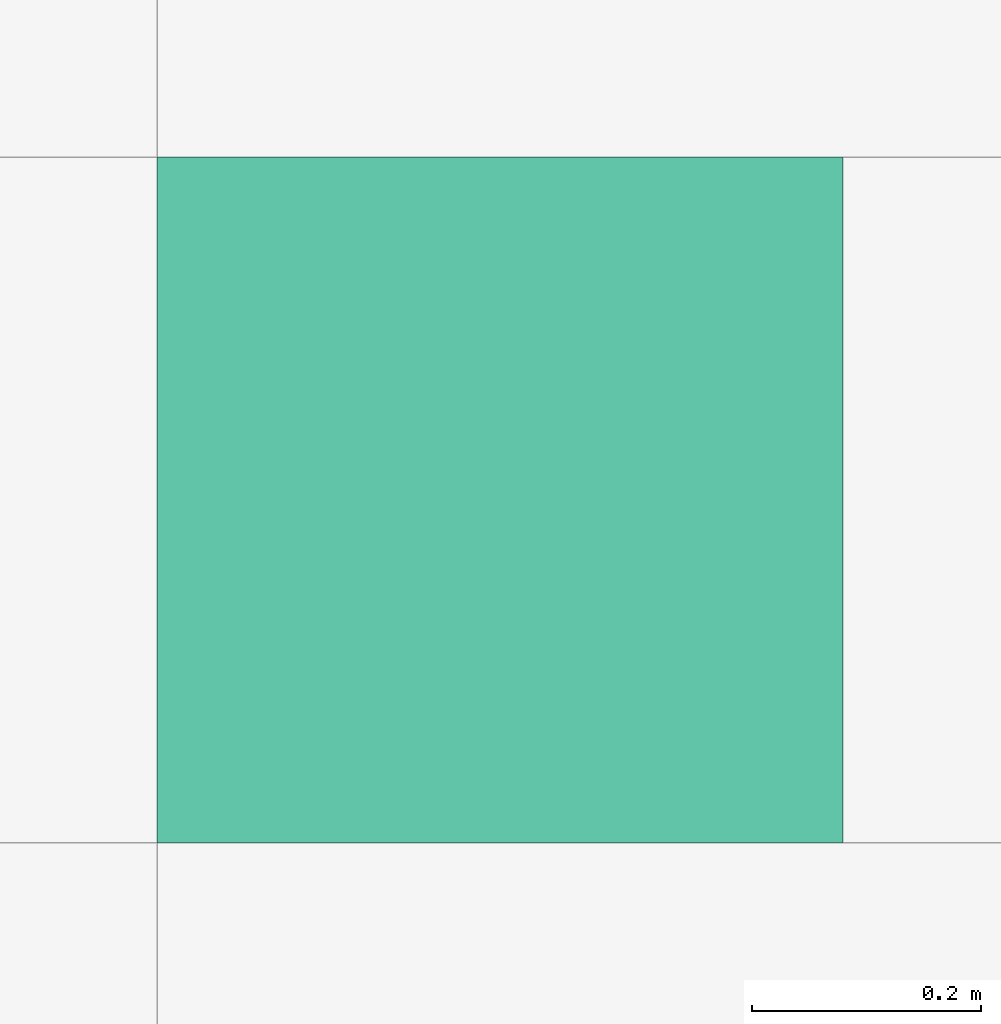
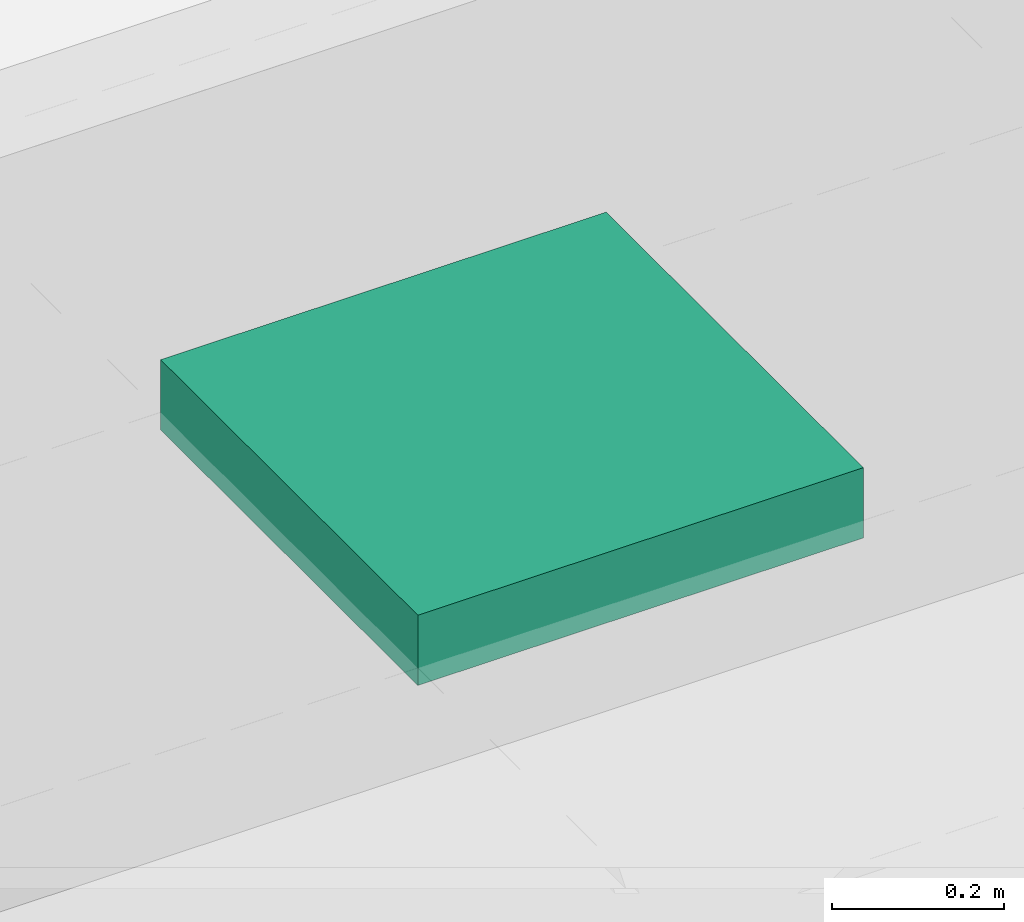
# One storey, part 192 of 347: 1 flow terminal.
"""IFC2X3 building model written with IfcOpenShell, lengths in millimetres."""

import ifcopenshell
import ifcopenshell.guid

model = None  # the IFC model being written
_history = None  # IfcOwnerHistory: only IFC2X3 demands one
_inside = {}  # id of a spatial element -> (the spatial element, [elements in it])
_under = {}  # id of a project, library or spatial element -> (it, [spatial elements below it])
_declared = {}  # id of a project -> (the project, [libraries it declares])
_typed = {}  # id of a type object -> (the type object, [elements of that type])
_made_of = {}  # id of a material, layer set ... -> (it, [elements and type objects made of it])


def new_model(schema):
    """Start an empty IFC model of exactly this schema.

    Asked for "IFC4X3", IfcOpenShell would pick the latest addendum, in which some entities
    have other attributes; the version numbers below select the first issue.
    IFC2X3 requires an IfcOwnerHistory on every rooted entity: one is made here for all.
    """
    global model, _history
    if schema == "IFC4X3":
        model = ifcopenshell.file(schema_version=(4, 3, 0, 0))
    else:
        model = ifcopenshell.file(schema=schema)
    _inside.clear()
    _under.clear()
    _declared.clear()
    _typed.clear()
    _made_of.clear()
    _history = None
    if model.schema == "IFC2X3":
        org = make("IfcOrganization", Name="unknown")
        user = make(
            "IfcPersonAndOrganization",
            ThePerson=make("IfcPerson", FamilyName="unknown"),
            TheOrganization=org,
        )
        app = make(
            "IfcApplication",
            ApplicationDeveloper=org,
            Version="unknown",
            ApplicationFullName="unknown",
            ApplicationIdentifier="unknown",
        )
        _history = make(
            "IfcOwnerHistory",
            OwningUser=user,
            OwningApplication=app,
            ChangeAction="ADDED",
            CreationDate=0,
        )
    return model


def make(cls, **values):
    """One entity of the class cls with the attributes given. An attribute that is None is left unset."""
    return model.create_entity(
        cls, **{name: value for name, value in values.items() if value is not None}
    )


def entity(cls, *values):
    """Any entity or typed value of the class cls, its attributes in the order of the schema. None: left unset."""
    e = model.create_entity(cls)
    for i, value in enumerate(values):
        if value is not None:
            e[i] = value
    return e


def rooted(cls, **values):
    """An entity with a GlobalId (a new one), such as an element, a storey or a relation."""
    return make(cls, GlobalId=ifcopenshell.guid.new(), OwnerHistory=_history, **values)


def si_unit(unit_type, name, prefix=None):
    """IfcSIUnit, for example si_unit("LENGTHUNIT", "METRE", prefix="MILLI")."""
    return make("IfcSIUnit", UnitType=unit_type, Prefix=prefix, Name=name)


def converted_unit(unit_type, name, factor, base, dimensions=None, offset=None):
    """IfcConversionBasedUnit, such as the inch: factor (a typed value) times the base unit."""
    return make(
        "IfcConversionBasedUnit"
        if offset is None
        else "IfcConversionBasedUnitWithOffset",
        ConversionOffset=offset,
        Dimensions=None
        if dimensions is None
        else entity("IfcDimensionalExponents", *dimensions),
        UnitType=unit_type,
        Name=name,
        ConversionFactor=make(
            "IfcMeasureWithUnit", ValueComponent=factor, UnitComponent=base
        ),
    )


def derived_unit(unit_type, elements):
    """IfcDerivedUnit: a product of units, each with its exponent."""
    return make(
        "IfcDerivedUnit",
        Elements=[
            make("IfcDerivedUnitElement", Unit=unit, Exponent=power)
            for unit, power in elements
        ],
        UnitType=unit_type,
    )


def money_unit(currency):
    """IfcMonetaryUnit."""
    return make("IfcMonetaryUnit", Currency=currency)


def assignment(units):
    """IfcUnitAssignment: the units of a project."""
    return None if units is None else make("IfcUnitAssignment", Units=units)


def point(xyz):
    """IfcCartesianPoint."""
    return None if xyz is None else make("IfcCartesianPoint", Coordinates=xyz)


def direction(xyz):
    """IfcDirection."""
    return None if xyz is None else make("IfcDirection", DirectionRatios=xyz)


def frame(location, z_axis=None, x_axis=None):
    """IfcAxis2Placement3D, a coordinate frame: its origin and axes. An axis left out is left unset."""
    return make(
        "IfcAxis2Placement3D",
        Location=point(location),
        Axis=direction(z_axis),
        RefDirection=direction(x_axis),
    )


def origin_with_axes():
    """The frame at (0, 0, 0) with the z axis (0, 0, 1) and the x axis (1, 0, 0) written out."""
    return frame((0.0, 0.0, 0.0), z_axis=(0.0, 0.0, 1.0), x_axis=(1.0, 0.0, 0.0))


def place(relative_to, where):
    """IfcLocalPlacement: puts the frame where relative to a parent placement (None: the world)."""
    return make(
        "IfcLocalPlacement", PlacementRelTo=relative_to, RelativePlacement=where
    )


def context(
    kind, dimensions, precision=None, world=None, true_north=None, identifier=None
):
    """IfcGeometricRepresentationContext, for example the 3D "Model" context."""
    return make(
        "IfcGeometricRepresentationContext",
        ContextIdentifier=identifier,
        ContextType=kind,
        CoordinateSpaceDimension=dimensions,
        Precision=precision,
        WorldCoordinateSystem=world,
        TrueNorth=true_north,
    )


def subcontext(parent, identifier, kind, view, scale=None):
    """IfcGeometricRepresentationSubContext, for example "Body" below "Model"."""
    return make(
        "IfcGeometricRepresentationSubContext",
        ContextIdentifier=identifier,
        ContextType=kind,
        ParentContext=parent,
        TargetScale=scale,
        TargetView=view,
    )


def project(units=None, contexts=None):
    """IfcProject with its units and contexts."""
    return rooted(
        "IfcProject",
        Name="project",
        RepresentationContexts=contexts,
        UnitsInContext=assignment(units),
    )


def spatial(cls, under=None, at=None, **own):
    """A site, building, storey or space (cls), placed at a placement, below another one or the project."""
    s = rooted(cls, ObjectPlacement=at, **own)
    if under is not None:
        _under.setdefault(under.id(), (under, []))[1].append(s)
    return s


def faces_of(points, faces, orient=None, outer=None):
    """IfcFace entities. A face is a list of loops; a loop is a list of indices into points, from 0.

    orient and outer hold one flag for each loop. By default every Orientation is true, the
    first loop of a face is its IfcFaceOuterBound and the others are IfcFaceBound.
    """
    made = []
    for i, loops in enumerate(faces):
        bounds = []
        for j, loop in enumerate(loops):
            is_outer = j == 0 if outer is None else outer[i][j]
            bounds.append(
                make(
                    "IfcFaceOuterBound" if is_outer else "IfcFaceBound",
                    Bound=make("IfcPolyLoop", Polygon=[points[k] for k in loop]),
                    Orientation=True if orient is None else orient[i][j],
                )
            )
        made.append(make("IfcFace", Bounds=bounds))
    return made


def open_shell(faces, orient=None, outer=None):
    """The faces of one IfcOpenShell. surface_model builds it on its shared points."""
    return ("IfcOpenShell", faces, orient, outer)


def faceted_brep(points, faces, orient=None, outer=None, voids=None):
    """IfcFacetedBrep: a solid bounded by flat faces; with voids (closed shells), ...WithVoids."""
    shared = [point(p) for p in points]
    hull = make("IfcClosedShell", CfsFaces=faces_of(shared, faces, orient, outer))
    if voids is None:
        return make("IfcFacetedBrep", Outer=hull)
    return make(
        "IfcFacetedBrepWithVoids",
        Outer=hull,
        Voids=[
            make(cls, CfsFaces=faces_of(shared, fs, o, b)) for cls, fs, o, b in voids
        ],
    )


def surface_model(cls, points, shells):
    """IfcFaceBasedSurfaceModel or IfcShellBasedSurfaceModel (cls): surfaces that need not close."""
    shared = [point(p) for p in points]
    made = [make(c, CfsFaces=faces_of(shared, fs, o, b)) for c, fs, o, b in shells]
    if cls == "IfcFaceBasedSurfaceModel":
        return make(cls, FbsmFaces=made)
    return make(cls, SbsmBoundary=made)


def shape(context_of_items, identifier, shape_type, items):
    """IfcShapeRepresentation: the items that make up one representation, for example the "Body"."""
    return make(
        "IfcShapeRepresentation",
        ContextOfItems=context_of_items,
        RepresentationIdentifier=identifier,
        RepresentationType=shape_type,
        Items=items,
    )


def source(mapping_origin, context_of_items, identifier, shape_type, items):
    """IfcRepresentationMap: a shape defined once, which mapped items show again and again."""
    return make(
        "IfcRepresentationMap",
        MappingOrigin=mapping_origin,
        MappedRepresentation=shape(context_of_items, identifier, shape_type, items),
    )


def transform(
    local_origin,
    x_axis=None,
    y_axis=None,
    z_axis=None,
    scale=None,
    scale2=None,
    scale3=None,
    uniform=True,
):
    """IfcCartesianTransformationOperator3D, or its non-uniform kind. x_axis, y_axis, z_axis: its Axis1, 2, 3."""
    if uniform:
        return make(
            "IfcCartesianTransformationOperator3D",
            Axis1=direction(x_axis),
            Axis2=direction(y_axis),
            LocalOrigin=point(local_origin),
            Scale=scale,
            Axis3=direction(z_axis),
        )
    return make(
        "IfcCartesianTransformationOperator3DnonUniform",
        Axis1=direction(x_axis),
        Axis2=direction(y_axis),
        LocalOrigin=point(local_origin),
        Scale=scale,
        Axis3=direction(z_axis),
        Scale2=scale2,
        Scale3=scale3,
    )


def mapped(mapping_source, mapping_target):
    """IfcMappedItem: shows the shape of a source again, moved by a transform."""
    return make(
        "IfcMappedItem", MappingSource=mapping_source, MappingTarget=mapping_target
    )


def made_of(thing, what):
    """Note that an element or type object is made of a material, layer set ...; save() writes the relation."""
    if what is not None:
        _made_of.setdefault(what.id(), (what, []))[1].append(thing)
    return thing


def type_object(cls, material=None, **own):
    """A type object (cls), such as IfcWallType, which elements share."""
    return made_of(rooted(cls, **own), material)


def type_shapes(of_type, sources):
    """Give a type object the sources (RepresentationMaps) that its elements show as mapped items."""
    of_type.RepresentationMaps = sources


def element(
    cls,
    number,
    at=None,
    inside=None,
    cuts=None,
    type_object=None,
    material=None,
    context=None,
    identifier="Body",
    shape_type=None,
    held_by="IfcProductDefinitionShape",
    body=None,
    shapes=None,
    **own,
):
    """One element of the class cls, such as IfcWall. Its Tag is "e" and its number.

    at: its placement. inside: the storey or other place that contains it. cuts: it is an
    opening in that element (IfcRelVoidsElement). A single representation is given by context,
    identifier, shape_type and body (its items); several are given by shapes. held_by: the class
    of the entity that holds the representations. save() writes the other relations.
    """
    e = rooted(cls, Tag="e%d" % number, ObjectPlacement=at, **own)
    if body is not None:
        shapes = [shape(context, identifier, shape_type, body)]
    if shapes is not None:
        e.Representation = make(held_by, Representations=shapes)
    if inside is not None:
        _inside.setdefault(inside.id(), (inside, []))[1].append(e)
    if cuts is not None:
        rooted(
            "IfcRelVoidsElement", RelatingBuildingElement=cuts, RelatedOpeningElement=e
        )
    if type_object is not None:
        _typed.setdefault(type_object.id(), (type_object, []))[1].append(e)
    return made_of(e, material)


def aggregate(whole, parts):
    """IfcRelAggregates: a whole, such as a stair, and the parts it consists of."""
    return rooted("IfcRelAggregates", RelatingObject=whole, RelatedObjects=parts)


def save(model, path):
    """Write the relations noted so far, then the file.

    IfcRelAggregates (storeys below a building ...), IfcRelContainedInSpatialStructure (elements
    in a storey), IfcRelDefinesByType, IfcRelAssociatesMaterial and IfcRelDeclares: one each for
    every whole, place, type object, material and project.
    """
    for whole, parts in _under.values():
        aggregate(whole, parts)
    for where, things in _inside.values():
        rooted(
            "IfcRelContainedInSpatialStructure",
            RelatedElements=things,
            RelatingStructure=where,
        )
    for kind, things in _typed.values():
        rooted("IfcRelDefinesByType", RelatedObjects=things, RelatingType=kind)
    for what, things in _made_of.values():
        rooted("IfcRelAssociatesMaterial", RelatedObjects=things, RelatingMaterial=what)
    for by, libraries in _declared.values():
        rooted("IfcRelDeclares", RelatingContext=by, RelatedDefinitions=libraries)
    model.write(path)


model = new_model("IFC2X3")

# Units and contexts
model_context = context("Model", 3, precision=0.01, world=origin_with_axes(), true_north=direction((0.0, 1.0)))
plan_context = context("Plan", 3, precision=0.01, world=origin_with_axes(), true_north=direction((0.0, 1.0)))
body_context = subcontext(model_context, "Body", "Model", "MODEL_VIEW")
ifc_project = project(units=[si_unit("LENGTHUNIT", "METRE", prefix="MILLI"), si_unit("AREAUNIT", "SQUARE_METRE"), si_unit("VOLUMEUNIT", "CUBIC_METRE"), converted_unit("PLANEANGLEUNIT", "DEGREE", entity("IfcPlaneAngleMeasure", 0.0174532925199), si_unit("PLANEANGLEUNIT", "RADIAN"), dimensions=[0, 0, 0, 0, 0, 0, 0]), money_unit("EUR"), converted_unit("TIMEUNIT", "Year", entity("IfcTimeMeasure", 31556926.0), si_unit("TIMEUNIT", "SECOND"), dimensions=[0, 0, 1, 0, 0, 0, 0]), si_unit("MASSUNIT", "GRAM", prefix="KILO"), si_unit("THERMODYNAMICTEMPERATUREUNIT", "DEGREE_CELSIUS"), si_unit("LUMINOUSINTENSITYUNIT", "LUMEN"), si_unit("ENERGYUNIT", "JOULE", prefix="MEGA"), derived_unit("THERMALCONDUCTANCEUNIT", [(si_unit("POWERUNIT", "WATT"), 1), (si_unit("LENGTHUNIT", "METRE"), -1), (si_unit("THERMODYNAMICTEMPERATUREUNIT", "KELVIN"), -1)]), derived_unit("SPECIFICHEATCAPACITYUNIT", [(si_unit("ENERGYUNIT", "JOULE"), 1), (si_unit("MASSUNIT", "GRAM", prefix="KILO"), -1), (si_unit("THERMODYNAMICTEMPERATUREUNIT", "KELVIN"), -1)]), derived_unit("MASSDENSITYUNIT", [(si_unit("MASSUNIT", "GRAM", prefix="KILO"), 1), (si_unit("VOLUMEUNIT", "CUBIC_METRE"), -1)])], contexts=[model_context, plan_context])

# Site, building, storey
site_placement = place(None, origin_with_axes())
site = spatial("IfcSite", under=ifc_project, at=site_placement, Name="Site", CompositionType="ELEMENT")
building_placement = place(site_placement, origin_with_axes())
building = spatial("IfcBuilding", under=site, at=building_placement, Name="Naam gebouw", CompositionType="ELEMENT")
storey_placement = place(building_placement, origin_with_axes())
storey = spatial("IfcBuildingStorey", under=building, at=storey_placement, Name="begane grond", CompositionType="ELEMENT", Elevation=0.0)

# Flow terminal
lamp_type = type_object("IfcLampType", Name="TL plafond 25", PredefinedType="NOTDEFINED")
shared_shape = source(origin_with_axes(), body_context, "Body", "SurfaceModel", [
    faceted_brep([(0.0, 0.0, -100.0), (600.0, 0.0, -100.0), (600.0, 0.0, 0.0), (0.0, 0.0, 0.0), (0.0, 600.0, -100.0), (600.0, 600.0, -100.0), (40.0, 40.0, -100.0), (560.0, 40.0, -100.0), (560.0, 560.0, -100.0), (40.0, 560.0, -100.0), (600.0, 600.0, 0.0), (0.0, 600.0, 0.0), (40.0, 40.0, 0.0), (40.0, 560.0, 0.0), (560.0, 560.0, 0.0), (560.0, 40.0, 0.0)], [[[0, 1, 2, 3]], [[0, 4, 5, 1], [6, 7, 8, 9]], [[1, 5, 10, 2]], [[3, 2, 10, 11], [12, 13, 14, 15]], [[4, 0, 3, 11]], [[5, 4, 11, 10]], [[7, 6, 12, 15]], [[8, 7, 15, 14]], [[9, 8, 14, 13]], [[6, 9, 13, 12]]]),
    faceted_brep([(40.0, 40.0, -16.3333333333), (560.0, 40.0, -16.3333333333), (560.0, 40.0, 0.0), (40.0, 40.0, 0.0), (40.0, 560.0, -16.3333333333), (560.0, 560.0, -16.3333333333), (560.0, 560.0, 0.0), (40.0, 560.0, 0.0)], [[[0, 1, 2, 3]], [[0, 4, 5, 1]], [[1, 5, 6, 2]], [[3, 2, 6, 7]], [[4, 0, 3, 7]], [[5, 4, 7, 6]]]),
    surface_model("IfcShellBasedSurfaceModel", [(559.0, 41.0, -100.0), (40.0, 41.0, -100.0), (40.0, 559.0, -100.0), (559.0, 559.0, -100.0)], [open_shell([[[0, 1, 2, 3]]])]),
    faceted_brep([(40.0, 40.0, -100.0), (560.0, 40.0, -100.0), (560.0, 40.0, -60.0), (40.0, 40.0, -60.0), (40.0, 560.0, -100.0), (560.0, 560.0, -100.0), (41.0, 41.0, -100.0), (559.0, 41.0, -100.0), (559.0, 559.0, -100.0), (41.0, 559.0, -100.0), (560.0, 560.0, -60.0), (40.0, 560.0, -60.0), (41.0, 41.0, -60.0), (41.0, 559.0, -60.0), (559.0, 559.0, -60.0), (559.0, 41.0, -60.0)], [[[0, 1, 2, 3]], [[0, 4, 5, 1], [6, 7, 8, 9]], [[1, 5, 10, 2]], [[3, 2, 10, 11], [12, 13, 14, 15]], [[4, 0, 3, 11]], [[5, 4, 11, 10]], [[7, 6, 12, 15]], [[8, 7, 15, 14]], [[9, 8, 14, 13]], [[6, 9, 13, 12]]]),
    faceted_brep([(40.0, 144.0, -48.3333333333), (40.0, 149.740251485, -47.191526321), (560.0, 149.740251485, -47.191526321), (560.0, 144.0, -48.3333333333), (40.0, 138.259748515, -47.191526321), (40.0, 133.393398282, -43.9399350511), (40.0, 130.141807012, -39.0735848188), (40.0, 129.0, -33.3333333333), (40.0, 130.141807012, -27.5930818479), (40.0, 133.393398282, -22.7267316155), (40.0, 138.259748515, -19.4751403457), (40.0, 144.0, -18.3333333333), (40.0, 149.740251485, -19.4751403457), (40.0, 154.606601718, -22.7267316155), (40.0, 157.858192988, -27.5930818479), (40.0, 159.0, -33.3333333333), (40.0, 157.858192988, -39.0735848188), (40.0, 154.606601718, -43.9399350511), (40.0, 144.0, -46.3333333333), (40.0, 148.974884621, -45.343767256), (40.0, 153.192388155, -42.5257214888), (40.0, 156.010433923, -38.3082179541), (40.0, 157.0, -33.3333333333), (40.0, 156.010433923, -28.3584487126), (40.0, 153.192388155, -24.1409451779), (40.0, 148.974884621, -21.3228994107), (40.0, 144.0, -20.3333333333), (40.0, 139.025115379, -21.3228994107), (40.0, 134.807611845, -24.1409451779), (40.0, 131.989566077, -28.3584487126), (40.0, 131.0, -33.3333333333), (40.0, 131.989566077, -38.3082179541), (40.0, 134.807611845, -42.5257214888), (40.0, 139.025115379, -45.343767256), (560.0, 154.606601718, -43.9399350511), (560.0, 157.858192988, -39.0735848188), (560.0, 159.0, -33.3333333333), (560.0, 157.858192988, -27.5930818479), (560.0, 154.606601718, -22.7267316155), (560.0, 149.740251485, -19.4751403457), (560.0, 144.0, -18.3333333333), (560.0, 138.259748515, -19.4751403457), (560.0, 133.393398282, -22.7267316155), (560.0, 130.141807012, -27.5930818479), (560.0, 129.0, -33.3333333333), (560.0, 130.141807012, -39.0735848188), (560.0, 133.393398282, -43.9399350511), (560.0, 138.259748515, -47.191526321), (560.0, 144.0, -46.3333333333), (560.0, 139.025115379, -45.343767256), (560.0, 134.807611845, -42.5257214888), (560.0, 131.989566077, -38.3082179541), (560.0, 131.0, -33.3333333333), (560.0, 131.989566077, -28.3584487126), (560.0, 134.807611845, -24.1409451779), (560.0, 139.025115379, -21.3228994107), (560.0, 144.0, -20.3333333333), (560.0, 148.974884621, -21.3228994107), (560.0, 153.192388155, -24.1409451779), (560.0, 156.010433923, -28.3584487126), (560.0, 157.0, -33.3333333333), (560.0, 156.010433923, -38.3082179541), (560.0, 153.192388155, -42.5257214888), (560.0, 148.974884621, -45.343767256)], [[[0, 1, 2, 3]], [[0, 4, 5, 6, 7, 8, 9, 10, 11, 12, 13, 14, 15, 16, 17, 1], [18, 19, 20, 21, 22, 23, 24, 25, 26, 27, 28, 29, 30, 31, 32, 33]], [[1, 17, 34, 2]], [[3, 2, 34, 35, 36, 37, 38, 39, 40, 41, 42, 43, 44, 45, 46, 47], [48, 49, 50, 51, 52, 53, 54, 55, 56, 57, 58, 59, 60, 61, 62, 63]], [[4, 0, 3, 47]], [[5, 4, 47, 46]], [[6, 5, 46, 45]], [[7, 6, 45, 44]], [[8, 7, 44, 43]], [[9, 8, 43, 42]], [[10, 9, 42, 41]], [[11, 10, 41, 40]], [[12, 11, 40, 39]], [[13, 12, 39, 38]], [[14, 13, 38, 37]], [[15, 14, 37, 36]], [[16, 15, 36, 35]], [[17, 16, 35, 34]], [[19, 18, 48, 63]], [[20, 19, 63, 62]], [[21, 20, 62, 61]], [[22, 21, 61, 60]], [[23, 22, 60, 59]], [[24, 23, 59, 58]], [[25, 24, 58, 57]], [[26, 25, 57, 56]], [[27, 26, 56, 55]], [[28, 27, 55, 54]], [[29, 28, 54, 53]], [[30, 29, 53, 52]], [[31, 30, 52, 51]], [[32, 31, 51, 50]], [[33, 32, 50, 49]], [[18, 33, 49, 48]]]),
    faceted_brep([(40.0, 248.0, -48.3333333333), (40.0, 253.740251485, -47.191526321), (560.0, 253.740251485, -47.191526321), (560.0, 248.0, -48.3333333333), (40.0, 242.259748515, -47.191526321), (40.0, 237.393398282, -43.9399350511), (40.0, 234.141807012, -39.0735848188), (40.0, 233.0, -33.3333333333), (40.0, 234.141807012, -27.5930818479), (40.0, 237.393398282, -22.7267316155), (40.0, 242.259748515, -19.4751403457), (40.0, 248.0, -18.3333333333), (40.0, 253.740251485, -19.4751403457), (40.0, 258.606601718, -22.7267316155), (40.0, 261.858192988, -27.5930818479), (40.0, 263.0, -33.3333333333), (40.0, 261.858192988, -39.0735848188), (40.0, 258.606601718, -43.9399350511), (40.0, 248.0, -46.3333333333), (40.0, 252.974884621, -45.343767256), (40.0, 257.192388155, -42.5257214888), (40.0, 260.010433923, -38.3082179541), (40.0, 261.0, -33.3333333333), (40.0, 260.010433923, -28.3584487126), (40.0, 257.192388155, -24.1409451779), (40.0, 252.974884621, -21.3228994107), (40.0, 248.0, -20.3333333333), (40.0, 243.025115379, -21.3228994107), (40.0, 238.807611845, -24.1409451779), (40.0, 235.989566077, -28.3584487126), (40.0, 235.0, -33.3333333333), (40.0, 235.989566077, -38.3082179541), (40.0, 238.807611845, -42.5257214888), (40.0, 243.025115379, -45.343767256), (560.0, 258.606601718, -43.9399350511), (560.0, 261.858192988, -39.0735848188), (560.0, 263.0, -33.3333333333), (560.0, 261.858192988, -27.5930818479), (560.0, 258.606601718, -22.7267316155), (560.0, 253.740251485, -19.4751403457), (560.0, 248.0, -18.3333333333), (560.0, 242.259748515, -19.4751403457), (560.0, 237.393398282, -22.7267316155), (560.0, 234.141807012, -27.5930818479), (560.0, 233.0, -33.3333333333), (560.0, 234.141807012, -39.0735848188), (560.0, 237.393398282, -43.9399350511), (560.0, 242.259748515, -47.191526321), (560.0, 248.0, -46.3333333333), (560.0, 243.025115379, -45.343767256), (560.0, 238.807611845, -42.5257214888), (560.0, 235.989566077, -38.3082179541), (560.0, 235.0, -33.3333333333), (560.0, 235.989566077, -28.3584487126), (560.0, 238.807611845, -24.1409451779), (560.0, 243.025115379, -21.3228994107), (560.0, 248.0, -20.3333333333), (560.0, 252.974884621, -21.3228994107), (560.0, 257.192388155, -24.1409451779), (560.0, 260.010433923, -28.3584487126), (560.0, 261.0, -33.3333333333), (560.0, 260.010433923, -38.3082179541), (560.0, 257.192388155, -42.5257214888), (560.0, 252.974884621, -45.343767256)], [[[0, 1, 2, 3]], [[0, 4, 5, 6, 7, 8, 9, 10, 11, 12, 13, 14, 15, 16, 17, 1], [18, 19, 20, 21, 22, 23, 24, 25, 26, 27, 28, 29, 30, 31, 32, 33]], [[1, 17, 34, 2]], [[3, 2, 34, 35, 36, 37, 38, 39, 40, 41, 42, 43, 44, 45, 46, 47], [48, 49, 50, 51, 52, 53, 54, 55, 56, 57, 58, 59, 60, 61, 62, 63]], [[4, 0, 3, 47]], [[5, 4, 47, 46]], [[6, 5, 46, 45]], [[7, 6, 45, 44]], [[8, 7, 44, 43]], [[9, 8, 43, 42]], [[10, 9, 42, 41]], [[11, 10, 41, 40]], [[12, 11, 40, 39]], [[13, 12, 39, 38]], [[14, 13, 38, 37]], [[15, 14, 37, 36]], [[16, 15, 36, 35]], [[17, 16, 35, 34]], [[19, 18, 48, 63]], [[20, 19, 63, 62]], [[21, 20, 62, 61]], [[22, 21, 61, 60]], [[23, 22, 60, 59]], [[24, 23, 59, 58]], [[25, 24, 58, 57]], [[26, 25, 57, 56]], [[27, 26, 56, 55]], [[28, 27, 55, 54]], [[29, 28, 54, 53]], [[30, 29, 53, 52]], [[31, 30, 52, 51]], [[32, 31, 51, 50]], [[33, 32, 50, 49]], [[18, 33, 49, 48]]]),
    faceted_brep([(40.0, 352.0, -48.3333333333), (40.0, 357.740251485, -47.191526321), (560.0, 357.740251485, -47.191526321), (560.0, 352.0, -48.3333333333), (40.0, 346.259748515, -47.191526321), (40.0, 341.393398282, -43.9399350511), (40.0, 338.141807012, -39.0735848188), (40.0, 337.0, -33.3333333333), (40.0, 338.141807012, -27.5930818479), (40.0, 341.393398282, -22.7267316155), (40.0, 346.259748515, -19.4751403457), (40.0, 352.0, -18.3333333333), (40.0, 357.740251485, -19.4751403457), (40.0, 362.606601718, -22.7267316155), (40.0, 365.858192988, -27.5930818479), (40.0, 367.0, -33.3333333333), (40.0, 365.858192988, -39.0735848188), (40.0, 362.606601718, -43.9399350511), (40.0, 352.0, -46.3333333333), (40.0, 356.974884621, -45.343767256), (40.0, 361.192388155, -42.5257214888), (40.0, 364.010433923, -38.3082179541), (40.0, 365.0, -33.3333333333), (40.0, 364.010433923, -28.3584487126), (40.0, 361.192388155, -24.1409451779), (40.0, 356.974884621, -21.3228994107), (40.0, 352.0, -20.3333333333), (40.0, 347.025115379, -21.3228994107), (40.0, 342.807611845, -24.1409451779), (40.0, 339.989566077, -28.3584487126), (40.0, 339.0, -33.3333333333), (40.0, 339.989566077, -38.3082179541), (40.0, 342.807611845, -42.5257214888), (40.0, 347.025115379, -45.343767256), (560.0, 362.606601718, -43.9399350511), (560.0, 365.858192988, -39.0735848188), (560.0, 367.0, -33.3333333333), (560.0, 365.858192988, -27.5930818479), (560.0, 362.606601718, -22.7267316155), (560.0, 357.740251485, -19.4751403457), (560.0, 352.0, -18.3333333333), (560.0, 346.259748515, -19.4751403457), (560.0, 341.393398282, -22.7267316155), (560.0, 338.141807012, -27.5930818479), (560.0, 337.0, -33.3333333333), (560.0, 338.141807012, -39.0735848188), (560.0, 341.393398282, -43.9399350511), (560.0, 346.259748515, -47.191526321), (560.0, 352.0, -46.3333333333), (560.0, 347.025115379, -45.343767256), (560.0, 342.807611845, -42.5257214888), (560.0, 339.989566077, -38.3082179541), (560.0, 339.0, -33.3333333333), (560.0, 339.989566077, -28.3584487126), (560.0, 342.807611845, -24.1409451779), (560.0, 347.025115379, -21.3228994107), (560.0, 352.0, -20.3333333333), (560.0, 356.974884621, -21.3228994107), (560.0, 361.192388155, -24.1409451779), (560.0, 364.010433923, -28.3584487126), (560.0, 365.0, -33.3333333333), (560.0, 364.010433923, -38.3082179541), (560.0, 361.192388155, -42.5257214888), (560.0, 356.974884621, -45.343767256)], [[[0, 1, 2, 3]], [[0, 4, 5, 6, 7, 8, 9, 10, 11, 12, 13, 14, 15, 16, 17, 1], [18, 19, 20, 21, 22, 23, 24, 25, 26, 27, 28, 29, 30, 31, 32, 33]], [[1, 17, 34, 2]], [[3, 2, 34, 35, 36, 37, 38, 39, 40, 41, 42, 43, 44, 45, 46, 47], [48, 49, 50, 51, 52, 53, 54, 55, 56, 57, 58, 59, 60, 61, 62, 63]], [[4, 0, 3, 47]], [[5, 4, 47, 46]], [[6, 5, 46, 45]], [[7, 6, 45, 44]], [[8, 7, 44, 43]], [[9, 8, 43, 42]], [[10, 9, 42, 41]], [[11, 10, 41, 40]], [[12, 11, 40, 39]], [[13, 12, 39, 38]], [[14, 13, 38, 37]], [[15, 14, 37, 36]], [[16, 15, 36, 35]], [[17, 16, 35, 34]], [[19, 18, 48, 63]], [[20, 19, 63, 62]], [[21, 20, 62, 61]], [[22, 21, 61, 60]], [[23, 22, 60, 59]], [[24, 23, 59, 58]], [[25, 24, 58, 57]], [[26, 25, 57, 56]], [[27, 26, 56, 55]], [[28, 27, 55, 54]], [[29, 28, 54, 53]], [[30, 29, 53, 52]], [[31, 30, 52, 51]], [[32, 31, 51, 50]], [[33, 32, 50, 49]], [[18, 33, 49, 48]]]),
    faceted_brep([(40.0, 456.0, -48.3333333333), (40.0, 461.740251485, -47.191526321), (560.0, 461.740251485, -47.191526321), (560.0, 456.0, -48.3333333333), (40.0, 450.259748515, -47.191526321), (40.0, 445.393398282, -43.9399350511), (40.0, 442.141807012, -39.0735848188), (40.0, 441.0, -33.3333333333), (40.0, 442.141807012, -27.5930818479), (40.0, 445.393398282, -22.7267316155), (40.0, 450.259748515, -19.4751403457), (40.0, 456.0, -18.3333333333), (40.0, 461.740251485, -19.4751403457), (40.0, 466.606601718, -22.7267316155), (40.0, 469.858192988, -27.5930818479), (40.0, 471.0, -33.3333333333), (40.0, 469.858192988, -39.0735848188), (40.0, 466.606601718, -43.9399350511), (40.0, 456.0, -46.3333333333), (40.0, 460.974884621, -45.343767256), (40.0, 465.192388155, -42.5257214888), (40.0, 468.010433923, -38.3082179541), (40.0, 469.0, -33.3333333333), (40.0, 468.010433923, -28.3584487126), (40.0, 465.192388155, -24.1409451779), (40.0, 460.974884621, -21.3228994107), (40.0, 456.0, -20.3333333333), (40.0, 451.025115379, -21.3228994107), (40.0, 446.807611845, -24.1409451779), (40.0, 443.989566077, -28.3584487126), (40.0, 443.0, -33.3333333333), (40.0, 443.989566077, -38.3082179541), (40.0, 446.807611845, -42.5257214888), (40.0, 451.025115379, -45.343767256), (560.0, 466.606601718, -43.9399350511), (560.0, 469.858192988, -39.0735848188), (560.0, 471.0, -33.3333333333), (560.0, 469.858192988, -27.5930818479), (560.0, 466.606601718, -22.7267316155), (560.0, 461.740251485, -19.4751403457), (560.0, 456.0, -18.3333333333), (560.0, 450.259748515, -19.4751403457), (560.0, 445.393398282, -22.7267316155), (560.0, 442.141807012, -27.5930818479), (560.0, 441.0, -33.3333333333), (560.0, 442.141807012, -39.0735848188), (560.0, 445.393398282, -43.9399350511), (560.0, 450.259748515, -47.191526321), (560.0, 456.0, -46.3333333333), (560.0, 451.025115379, -45.343767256), (560.0, 446.807611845, -42.5257214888), (560.0, 443.989566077, -38.3082179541), (560.0, 443.0, -33.3333333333), (560.0, 443.989566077, -28.3584487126), (560.0, 446.807611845, -24.1409451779), (560.0, 451.025115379, -21.3228994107), (560.0, 456.0, -20.3333333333), (560.0, 460.974884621, -21.3228994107), (560.0, 465.192388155, -24.1409451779), (560.0, 468.010433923, -28.3584487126), (560.0, 469.0, -33.3333333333), (560.0, 468.010433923, -38.3082179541), (560.0, 465.192388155, -42.5257214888), (560.0, 460.974884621, -45.343767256)], [[[0, 1, 2, 3]], [[0, 4, 5, 6, 7, 8, 9, 10, 11, 12, 13, 14, 15, 16, 17, 1], [18, 19, 20, 21, 22, 23, 24, 25, 26, 27, 28, 29, 30, 31, 32, 33]], [[1, 17, 34, 2]], [[3, 2, 34, 35, 36, 37, 38, 39, 40, 41, 42, 43, 44, 45, 46, 47], [48, 49, 50, 51, 52, 53, 54, 55, 56, 57, 58, 59, 60, 61, 62, 63]], [[4, 0, 3, 47]], [[5, 4, 47, 46]], [[6, 5, 46, 45]], [[7, 6, 45, 44]], [[8, 7, 44, 43]], [[9, 8, 43, 42]], [[10, 9, 42, 41]], [[11, 10, 41, 40]], [[12, 11, 40, 39]], [[13, 12, 39, 38]], [[14, 13, 38, 37]], [[15, 14, 37, 36]], [[16, 15, 36, 35]], [[17, 16, 35, 34]], [[19, 18, 48, 63]], [[20, 19, 63, 62]], [[21, 20, 62, 61]], [[22, 21, 61, 60]], [[23, 22, 60, 59]], [[24, 23, 59, 58]], [[25, 24, 58, 57]], [[26, 25, 57, 56]], [[27, 26, 56, 55]], [[28, 27, 55, 54]], [[29, 28, 54, 53]], [[30, 29, 53, 52]], [[31, 30, 52, 51]], [[32, 31, 51, 50]], [[33, 32, 50, 49]], [[18, 33, 49, 48]]]),
])
type_shapes(lamp_type, [shared_shape])
flow_terminal_placement = place(storey_placement, frame((18505.0, 7999.99997201, 3295.0), z_axis=(0.0, 0.0, 1.0), x_axis=(1.0, 0.0, 0.0)))
element("IfcFlowTerminal", 1, at=flow_terminal_placement, inside=storey, type_object=lamp_type, Name="63_Lamp-x", ObjectType="Lamp", context=body_context, shape_type="MappedRepresentation", body=[
    mapped(shared_shape, transform((0.0, 0.0, 0.0))),
])

save(model, "model.ifc")
